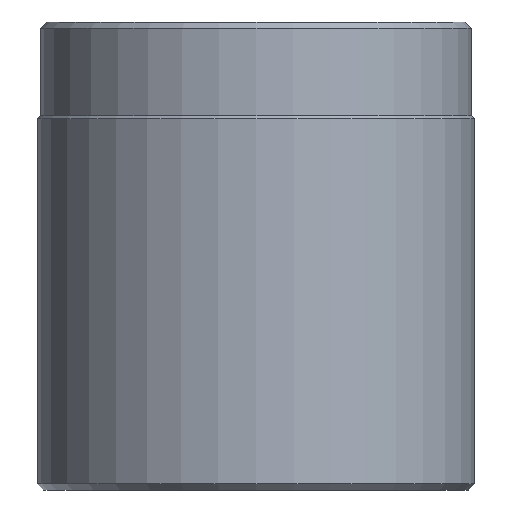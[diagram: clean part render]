
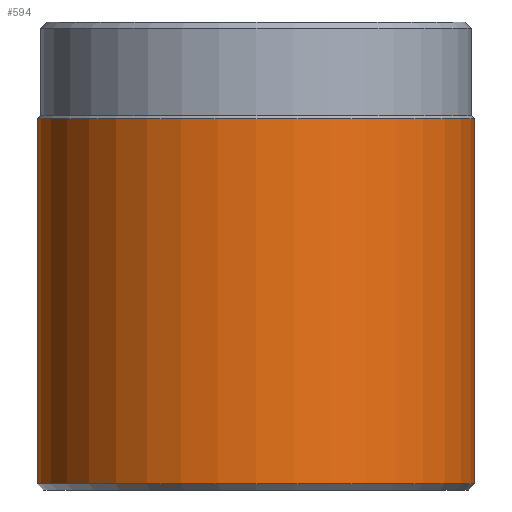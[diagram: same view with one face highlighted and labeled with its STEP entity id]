
A CAD part, front view. The second image highlights one B-rep face of the part: STEP entity #594.
In plain terms, the highlighted cylindrical face has radius 35 mm (diameter 70 mm), a partial arc.
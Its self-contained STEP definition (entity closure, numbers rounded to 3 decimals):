
#125=VERTEX_POINT(' ',#126);
#126=CARTESIAN_POINT('',(-35.,0.,1.));
#127=VERTEX_POINT(' ',#128);
#128=CARTESIAN_POINT('',(35.,0.,1.));
#129=VERTEX_POINT(' ',#130);
#130=CARTESIAN_POINT('',(-35.,0.,59.5));
#131=VERTEX_POINT(' ',#132);
#132=CARTESIAN_POINT('',(35.,0.,59.5));
#321=CIRCLE('',#322,35.);
#322=AXIS2_PLACEMENT_3D('',#323,#324,#325);
#323=CARTESIAN_POINT('',(0.,0.,1.));
#324=DIRECTION('',(0.,0.,1.));
#325=DIRECTION('',(0.,1.,0.));
#326=EDGE_CURVE(' ',#125,#127,#321,.T.);
#327=LINE('',#328,#329);
#328=CARTESIAN_POINT('',(-35.,0.,1.));
#329=VECTOR('',#330,1.);
#330=DIRECTION('',(0.,0.,1.));
#331=EDGE_CURVE(' ',#125,#129,#327,.T.);
#338=LINE('',#339,#340);
#339=CARTESIAN_POINT('',(35.,0.,1.));
#340=VECTOR('',#341,1.);
#341=DIRECTION('',(0.,0.,1.));
#342=EDGE_CURVE(' ',#127,#131,#338,.T.);
#343=CIRCLE('',#344,35.);
#344=AXIS2_PLACEMENT_3D('',#345,#346,#347);
#345=CARTESIAN_POINT('',(0.,0.,59.5));
#346=DIRECTION('',(0.,0.,1.));
#347=DIRECTION('',(0.,1.,0.));
#348=EDGE_CURVE(' ',#129,#131,#343,.T.);
#583=ORIENTED_EDGE('',*,*,#331,.F.);
#584=ORIENTED_EDGE('',*,*,#326,.T.);
#585=ORIENTED_EDGE('',*,*,#342,.T.);
#586=ORIENTED_EDGE('',*,*,#348,.F.);
#587=EDGE_LOOP('',(#583,#584,#585,#586));
#588=FACE_OUTER_BOUND('',#587,.T.);
#589=CYLINDRICAL_SURFACE('',#590,35.);
#590=AXIS2_PLACEMENT_3D('',#591,#592,#593);
#591=CARTESIAN_POINT('',(0.,0.,1.));
#592=DIRECTION('',(0.,0.,1.));
#593=DIRECTION('',(0.,1.,0.));
#594=ADVANCED_FACE('',(#588),#589,.T.);
